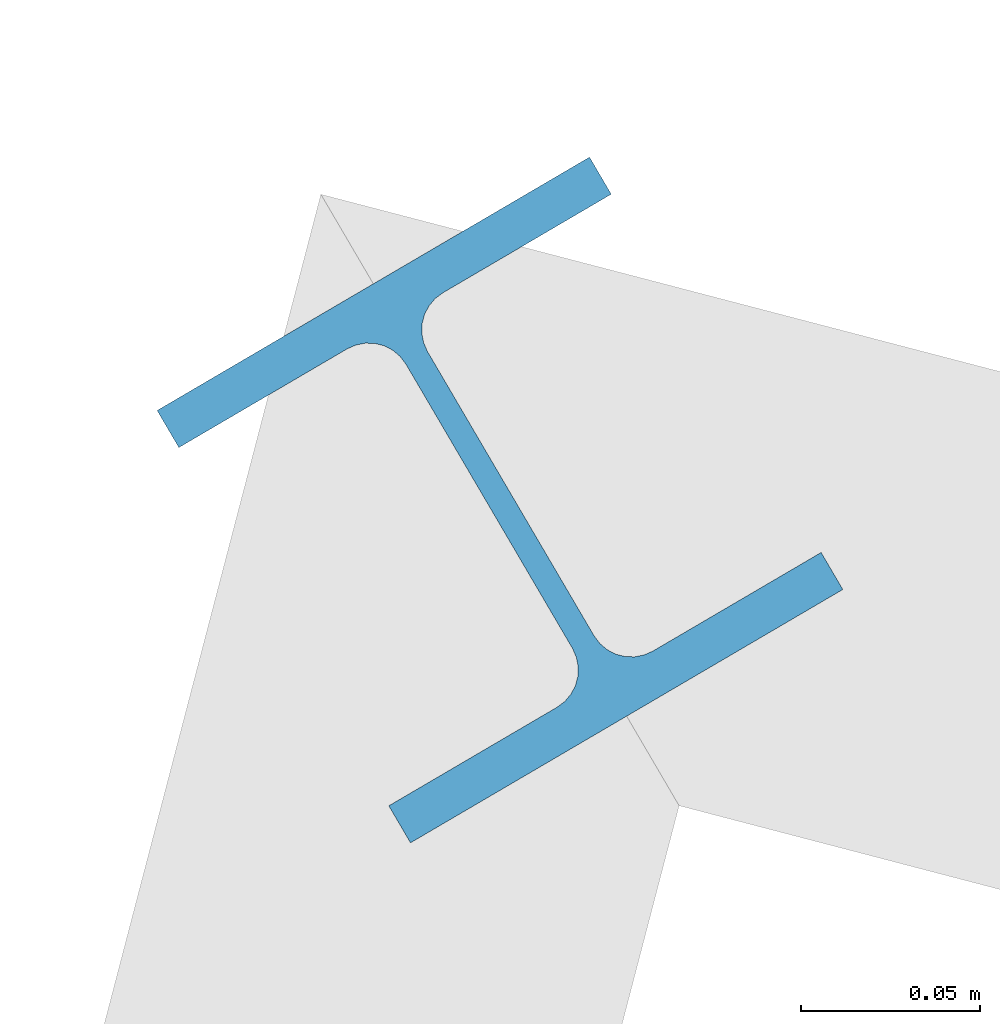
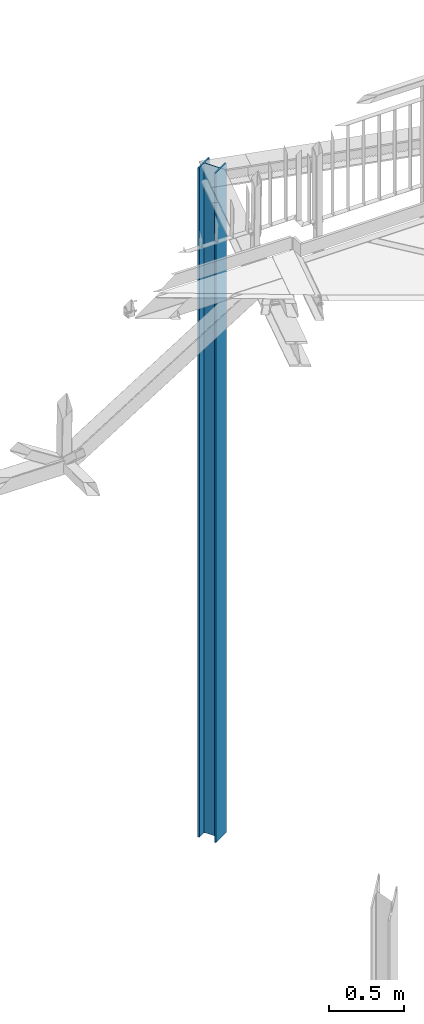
# One storey, part 5 of 169: 1 column, 1 element without a shape of its own.
"""IFC2X3 building model written with IfcOpenShell, lengths in millimetres."""

from ifc_helpers import new_model, si_unit, frame, origin_with_axes, origin_2d_with_axis, place, context, subcontext, project, spatial, i_section, extrude, material, type_object, element, aggregate, save


model = new_model("IFC2X3")

# Units and contexts
model_context = context("Model", 3, precision=1e-05, world=origin_with_axes())
body_context = subcontext(model_context, "Body", "Model", "MODEL_VIEW")
ifc_project = project(units=[si_unit("LENGTHUNIT", "METRE", prefix="MILLI"), si_unit("AREAUNIT", "SQUARE_METRE"), si_unit("VOLUMEUNIT", "CUBIC_METRE"), si_unit("MASSUNIT", "GRAM", prefix="KILO"), si_unit("TIMEUNIT", "SECOND"), si_unit("PLANEANGLEUNIT", "RADIAN"), si_unit("SOLIDANGLEUNIT", "STERADIAN"), si_unit("THERMODYNAMICTEMPERATUREUNIT", "DEGREE_CELSIUS"), si_unit("LUMINOUSINTENSITYUNIT", "LUMEN")], contexts=[model_context])

# Site, building, storey
site_placement = place(None, origin_with_axes())
site = spatial("IfcSite", under=ifc_project, at=site_placement, Name="Undefined", CompositionType="ELEMENT")
building_placement = place(site_placement, origin_with_axes())
building = spatial("IfcBuilding", under=site, at=building_placement, Name="Undefined", CompositionType="ELEMENT")
storey_placement = place(building_placement, origin_with_axes())
storey = spatial("IfcBuildingStorey", under=building, at=storey_placement, Name="Undefined", CompositionType="ELEMENT", Elevation=0.0)

# Assembly, column
assembly_placement = place(storey_placement, origin_with_axes())
assembly = element("IfcElementAssembly", 1, at=assembly_placement, inside=storey, Name="Steel Assembly", AssemblyPlace="NOTDEFINED", PredefinedType="RIGID_FRAME")
ifc_material = material(Name="STEEL/S355")
column_type = type_object("IfcColumnType", Name="HEB140", PredefinedType="NOTDEFINED")
column_placement = place(assembly_placement, frame((19388.492940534, 3782.97237257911, 8070.41713221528), z_axis=(0.0, 0.0, 1.0), x_axis=(-0.505535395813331, 0.86280586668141, 0.0)))
column = element("IfcColumn", 2, at=column_placement, type_object=column_type, material=ifc_material, Name="COLUMN", ObjectType="HEB140", context=body_context, shape_type="SweptSolid", body=[
    extrude(i_section(OverallWidth=140.0, OverallDepth=140.0, WebThickness=7.0, FlangeThickness=12.0, FilletRadius=12.0, at=origin_2d_with_axis()), frame((0.0, 0.0, 5469.58286959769), z_axis=(-2.54700353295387e-10, 0.0, -1.0), x_axis=(0.0, 1.0, 0.0)), (0.0, 0.0, 1.0), 5469.58),
])
aggregate(assembly, [column])

save(model, "model.ifc")
